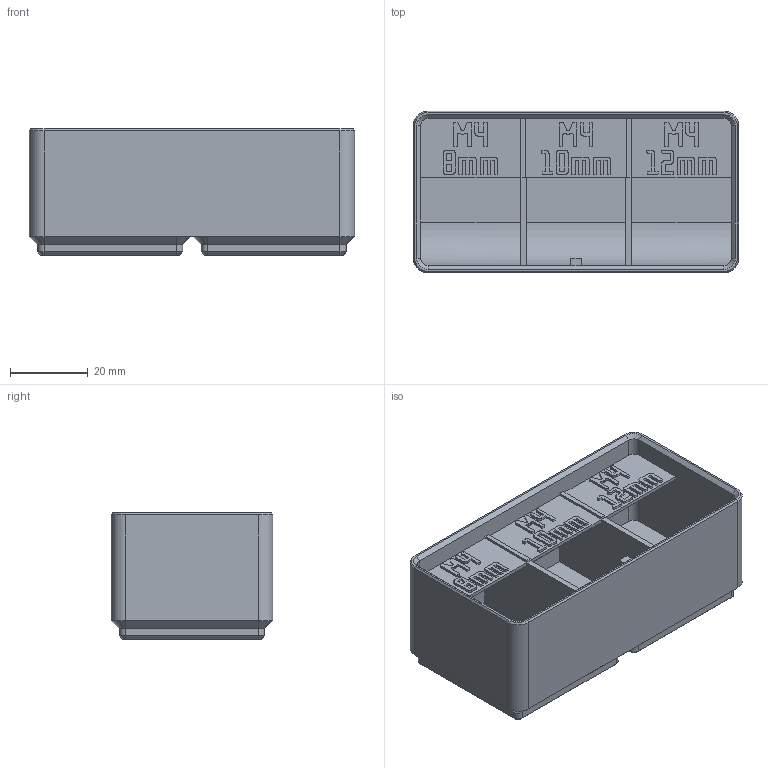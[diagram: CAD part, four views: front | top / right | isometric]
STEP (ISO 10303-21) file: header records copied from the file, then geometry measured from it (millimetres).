
FILE_DESCRIPTION(('Open CASCADE Model'),'2;1');
FILE_NAME('Open CASCADE Shape Model','2026-11-03T16:32:00',('Author'),( 'Open CASCADE'),'Open CASCADE STEP processor 8.0','build123d', 'Unknown');
FILE_SCHEMA(('AUTOMOTIVE_DESIGN { 1 0 10303 214 1 1 1 1 }'));
Products named in the file (1): COMPOUND
Bounding box: 83.5 x 41.5 x 32.4 mm (x, y, z)
Volume: 43323.4 mm3; surface area: 24264.6 mm2
Topology: 1 solids, 1 shells, 1647 faces, 4810 edges, 3186 vertices
Faces by surface type: plane 1602, cone 24, cylinder 21
Entity records: 112958 total; most frequent: CARTESIAN_POINT 22814, DIRECTION 14560, LINE 11120, VECTOR 11120, ORIENTED_EDGE 9620, PCURVE 9620, DEFINITIONAL_REPRESENTATION 9620, EDGE_CURVE 4810
